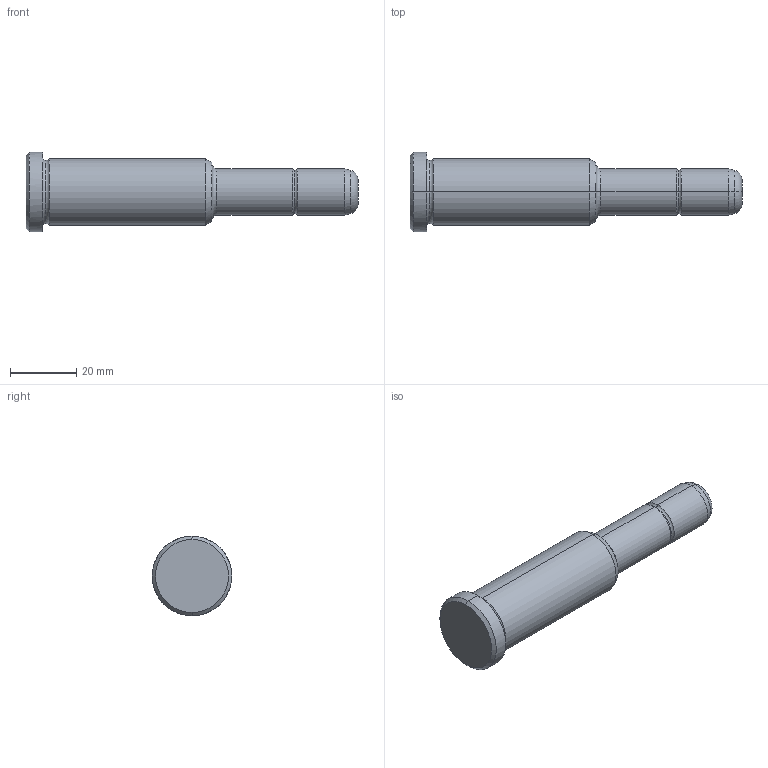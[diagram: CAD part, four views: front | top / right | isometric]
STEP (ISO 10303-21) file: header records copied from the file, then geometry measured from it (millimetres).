
FILE_DESCRIPTION(('CATIA V5 STEP Exchange'),'2;1');
FILE_NAME('C:\Users\Utente\Desktop\IO LAVORO\3D X SITO CF\X SITO\PLASTICA\351\351-14X56X100.stp','2021-08-18T10:25:28+00:00',('none'),('none'),'CATIA Version 5 Release 20 GA (IN-10)','CATIA V5 STEP AP203','none');
FILE_SCHEMA(('CONFIG_CONTROL_DESIGN'));
Length unit declared in the file: millimetre
Products named in the file (1): 351-14X56X100
Bounding box: 100 x 24 x 24 mm (x, y, z)
Volume: 24781 mm3; surface area: 6242.9 mm2
Topology: 1 solids, 1 shells, 30 faces, 86 edges, 60 vertices
Faces by surface type: torus 12, cylinder 8, cone 6, plane 4
Entity records: 1112 total; most frequent: CARTESIAN_POINT 289, ORIENTED_EDGE 172, DIRECTION 138, AXIS2_PLACEMENT_3D 95, EDGE_CURVE 86, CIRCLE 64, VERTEX_POINT 60, EDGE_LOOP 32
